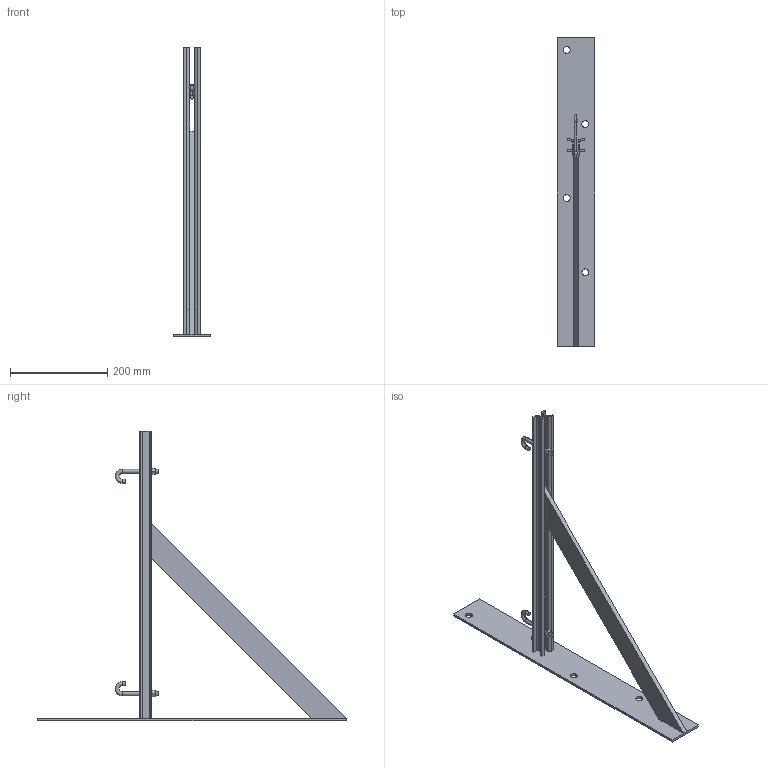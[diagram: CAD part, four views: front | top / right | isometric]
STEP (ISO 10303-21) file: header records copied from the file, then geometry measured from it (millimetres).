
FILE_DESCRIPTION (( 'STEP AP203' ), '1' );
FILE_NAME ('ltsb18gz.STEP', '2018-06-25T18:51:27', ( '' ), ( '' ), 'SwSTEP 2.0', 'SolidWorks 2014', '' );
FILE_SCHEMA (( 'CONFIG_CONTROL_DESIGN' ));
Length unit declared in the file: inch
Products named in the file (3): jbolt; ltsb18gz; 10108
Assembly tree (3 placements, depth 2):
  ltsb18gz
    10108
    jbolt  x2
Bounding box: 76.2 x 635 x 595.31 mm (x, y, z)
Volume: 649598 mm3; surface area: 275936.2 mm2
Topology: 3 solids, 3 shells, 81 faces, 205 edges, 132 vertices
Faces by surface type: plane 49, cylinder 28, torus 4
Entity records: 2314 total; most frequent: DIRECTION 351, CARTESIAN_POINT 344, ORIENTED_EDGE 334, EDGE_CURVE 167, LINE 121, VECTOR 121, AXIS2_PLACEMENT_3D 115, VERTEX_POINT 108
